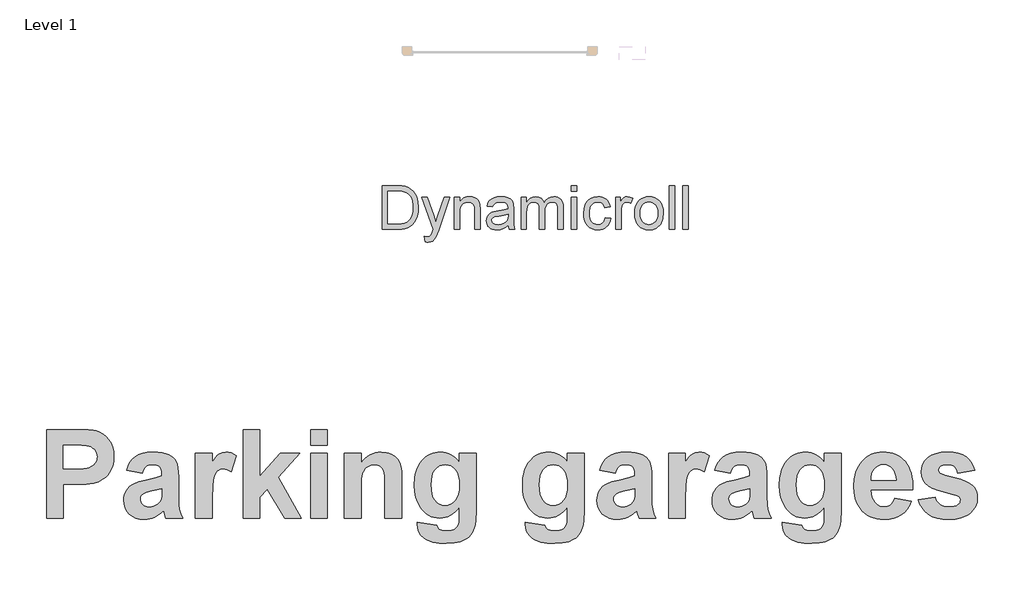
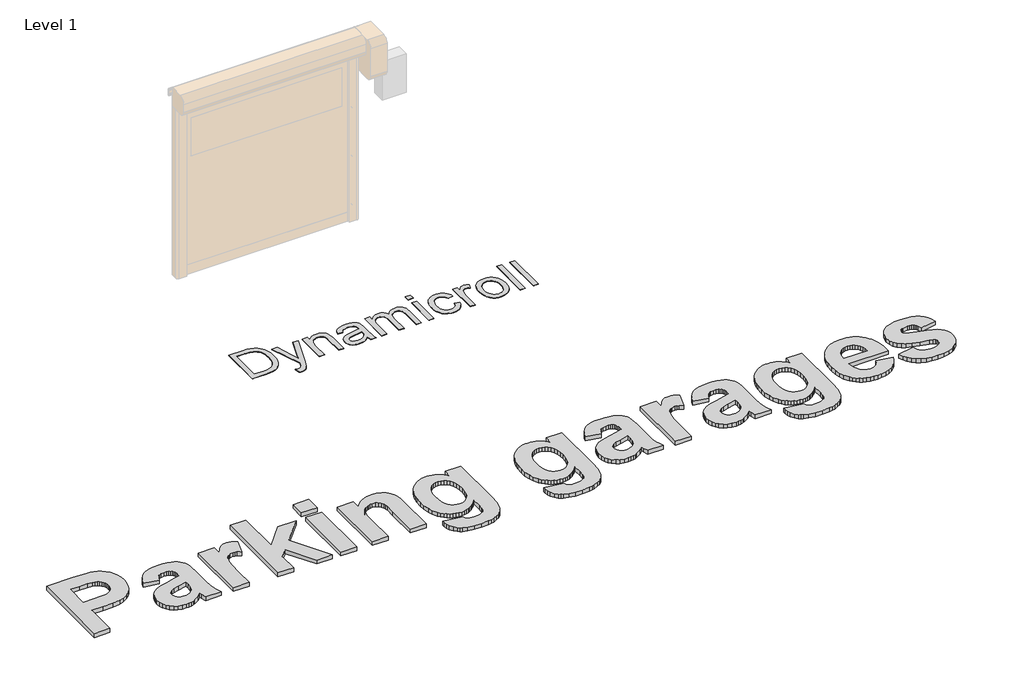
# One storey, part 17 of 17: 2 proxies.
"""IFC4 building model written with IfcOpenShell, lengths in millimetres."""

import ifcopenshell
import ifcopenshell.guid

model = None  # the IFC model being written
_history = None  # IfcOwnerHistory: only IFC2X3 demands one
_inside = {}  # id of a spatial element -> (the spatial element, [elements in it])
_under = {}  # id of a project, library or spatial element -> (it, [spatial elements below it])
_declared = {}  # id of a project -> (the project, [libraries it declares])
_typed = {}  # id of a type object -> (the type object, [elements of that type])
_made_of = {}  # id of a material, layer set ... -> (it, [elements and type objects made of it])


def new_model(schema):
    """Start an empty IFC model of exactly this schema.

    Asked for "IFC4X3", IfcOpenShell would pick the latest addendum, in which some entities
    have other attributes; the version numbers below select the first issue.
    IFC2X3 requires an IfcOwnerHistory on every rooted entity: one is made here for all.
    """
    global model, _history
    if schema == "IFC4X3":
        model = ifcopenshell.file(schema_version=(4, 3, 0, 0))
    else:
        model = ifcopenshell.file(schema=schema)
    _inside.clear()
    _under.clear()
    _declared.clear()
    _typed.clear()
    _made_of.clear()
    _history = None
    if model.schema == "IFC2X3":
        org = make("IfcOrganization", Name="unknown")
        user = make(
            "IfcPersonAndOrganization",
            ThePerson=make("IfcPerson", FamilyName="unknown"),
            TheOrganization=org,
        )
        app = make(
            "IfcApplication",
            ApplicationDeveloper=org,
            Version="unknown",
            ApplicationFullName="unknown",
            ApplicationIdentifier="unknown",
        )
        _history = make(
            "IfcOwnerHistory",
            OwningUser=user,
            OwningApplication=app,
            ChangeAction="ADDED",
            CreationDate=0,
        )
    return model


def make(cls, **values):
    """One entity of the class cls with the attributes given. An attribute that is None is left unset."""
    return model.create_entity(
        cls, **{name: value for name, value in values.items() if value is not None}
    )


def rooted(cls, **values):
    """An entity with a GlobalId (a new one), such as an element, a storey or a relation."""
    return make(cls, GlobalId=ifcopenshell.guid.new(), OwnerHistory=_history, **values)


def si_unit(unit_type, name, prefix=None):
    """IfcSIUnit, for example si_unit("LENGTHUNIT", "METRE", prefix="MILLI")."""
    return make("IfcSIUnit", UnitType=unit_type, Prefix=prefix, Name=name)


def assignment(units):
    """IfcUnitAssignment: the units of a project."""
    return None if units is None else make("IfcUnitAssignment", Units=units)


def point(xyz):
    """IfcCartesianPoint."""
    return None if xyz is None else make("IfcCartesianPoint", Coordinates=xyz)


def direction(xyz):
    """IfcDirection."""
    return None if xyz is None else make("IfcDirection", DirectionRatios=xyz)


def frame(location, z_axis=None, x_axis=None):
    """IfcAxis2Placement3D, a coordinate frame: its origin and axes. An axis left out is left unset."""
    return make(
        "IfcAxis2Placement3D",
        Location=point(location),
        Axis=direction(z_axis),
        RefDirection=direction(x_axis),
    )


def origin():
    """The frame at (0, 0, 0) with its axes left unset."""
    return frame((0.0, 0.0, 0.0))


def origin_with_axes():
    """The frame at (0, 0, 0) with the z axis (0, 0, 1) and the x axis (1, 0, 0) written out."""
    return frame((0.0, 0.0, 0.0), z_axis=(0.0, 0.0, 1.0), x_axis=(1.0, 0.0, 0.0))


def place(relative_to, where):
    """IfcLocalPlacement: puts the frame where relative to a parent placement (None: the world)."""
    return make(
        "IfcLocalPlacement", PlacementRelTo=relative_to, RelativePlacement=where
    )


def context(
    kind, dimensions, precision=None, world=None, true_north=None, identifier=None
):
    """IfcGeometricRepresentationContext, for example the 3D "Model" context."""
    return make(
        "IfcGeometricRepresentationContext",
        ContextIdentifier=identifier,
        ContextType=kind,
        CoordinateSpaceDimension=dimensions,
        Precision=precision,
        WorldCoordinateSystem=world,
        TrueNorth=true_north,
    )


def project(units=None, contexts=None):
    """IfcProject with its units and contexts."""
    return rooted(
        "IfcProject",
        Name="project",
        RepresentationContexts=contexts,
        UnitsInContext=assignment(units),
    )


def spatial(cls, under=None, at=None, **own):
    """A site, building, storey or space (cls), placed at a placement, below another one or the project."""
    s = rooted(cls, ObjectPlacement=at, **own)
    if under is not None:
        _under.setdefault(under.id(), (under, []))[1].append(s)
    return s


def polyline(points):
    """IfcPolyline through the points."""
    return make("IfcPolyline", Points=[point(p) for p in points])


def outline(outer, holes=None, kind="AREA"):
    """IfcArbitraryClosedProfileDef: a profile drawn as a closed curve; with holes, ...WithVoids."""
    if holes is None:
        return make("IfcArbitraryClosedProfileDef", ProfileType=kind, OuterCurve=outer)
    return make(
        "IfcArbitraryProfileDefWithVoids",
        ProfileType=kind,
        OuterCurve=outer,
        InnerCurves=holes,
    )


def extrude(swept, where, along, depth):
    """IfcExtrudedAreaSolid: the profile swept, set in the frame where, extruded along a direction by depth."""
    return make(
        "IfcExtrudedAreaSolid",
        SweptArea=swept,
        Position=where,
        ExtrudedDirection=direction(along),
        Depth=depth,
    )


def shape(context_of_items, identifier, shape_type, items):
    """IfcShapeRepresentation: the items that make up one representation, for example the "Body"."""
    return make(
        "IfcShapeRepresentation",
        ContextOfItems=context_of_items,
        RepresentationIdentifier=identifier,
        RepresentationType=shape_type,
        Items=items,
    )


def made_of(thing, what):
    """Note that an element or type object is made of a material, layer set ...; save() writes the relation."""
    if what is not None:
        _made_of.setdefault(what.id(), (what, []))[1].append(thing)
    return thing


def element(
    cls,
    number,
    at=None,
    inside=None,
    cuts=None,
    type_object=None,
    material=None,
    context=None,
    identifier="Body",
    shape_type=None,
    held_by="IfcProductDefinitionShape",
    body=None,
    shapes=None,
    **own,
):
    """One element of the class cls, such as IfcWall. Its Tag is "e" and its number.

    at: its placement. inside: the storey or other place that contains it. cuts: it is an
    opening in that element (IfcRelVoidsElement). A single representation is given by context,
    identifier, shape_type and body (its items); several are given by shapes. held_by: the class
    of the entity that holds the representations. save() writes the other relations.
    """
    e = rooted(cls, Tag="e%d" % number, ObjectPlacement=at, **own)
    if body is not None:
        shapes = [shape(context, identifier, shape_type, body)]
    if shapes is not None:
        e.Representation = make(held_by, Representations=shapes)
    if inside is not None:
        _inside.setdefault(inside.id(), (inside, []))[1].append(e)
    if cuts is not None:
        rooted(
            "IfcRelVoidsElement", RelatingBuildingElement=cuts, RelatedOpeningElement=e
        )
    if type_object is not None:
        _typed.setdefault(type_object.id(), (type_object, []))[1].append(e)
    return made_of(e, material)


def aggregate(whole, parts):
    """IfcRelAggregates: a whole, such as a stair, and the parts it consists of."""
    return rooted("IfcRelAggregates", RelatingObject=whole, RelatedObjects=parts)


def save(model, path):
    """Write the relations noted so far, then the file.

    IfcRelAggregates (storeys below a building ...), IfcRelContainedInSpatialStructure (elements
    in a storey), IfcRelDefinesByType, IfcRelAssociatesMaterial and IfcRelDeclares: one each for
    every whole, place, type object, material and project.
    """
    for whole, parts in _under.values():
        aggregate(whole, parts)
    for where, things in _inside.values():
        rooted(
            "IfcRelContainedInSpatialStructure",
            RelatedElements=things,
            RelatingStructure=where,
        )
    for kind, things in _typed.values():
        rooted("IfcRelDefinesByType", RelatedObjects=things, RelatingType=kind)
    for what, things in _made_of.values():
        rooted("IfcRelAssociatesMaterial", RelatedObjects=things, RelatingMaterial=what)
    for by, libraries in _declared.values():
        rooted("IfcRelDeclares", RelatingContext=by, RelatedDefinitions=libraries)
    model.write(path)


model = new_model("IFC4")

# Units and contexts
model_context = context("Model", 3, world=origin())
ifc_project = project(units=[si_unit("LENGTHUNIT", "METRE", prefix="MILLI")], contexts=[model_context])

# Site, building, storey
site = spatial("IfcSite", under=ifc_project)
building = spatial("IfcBuilding", under=site)
storey = spatial("IfcBuildingStorey", under=building, Name="Level 1", Elevation=0.0)

# Proxies
placement = place(None, origin())
element("IfcBuildingElementProxy", 1, Name="1000", ObjectType="1000", at=placement, inside=storey, context=model_context, shape_type="SweptSolid", body=[
    extrude(outline(polyline([(-782.7548717, 74991.5736553), (-782.7548717, 76011.8330553), (-454.0552287, 76011.8330553), (-299.6372478, 76008.0374474), (-246.8624832, 76003.2929375), (-210.3772023, 75996.6506237), (-168.5069028, 75981.9031056), (-130.1949857, 75960.4341985), (-95.441451, 75932.2439024), (-64.2462987, 75897.3322174), (-38.5073327, 75856.2842996), (-20.122357, 75809.6853052), (-9.0913716, 75757.5352344), (-5.4143765, 75699.834087), (-7.5731284, 75655.0063763), (-14.0493844, 75613.8951984), (-24.8431443, 75576.5005532), (-39.9544082, 75542.8224407), (-58.3947365, 75512.7106182), (-79.1756897, 75486.0148427), (-102.2972678, 75462.7351143), (-127.7594707, 75442.871433), (-181.4356922, 75412.6647203), (-235.9342954, 75394.6672129), (-327.3451854, 75383.8497304), (-452.283945, 75380.2439029), (-588.4197479, 75380.2439029), (-588.4197479, 74991.5736553), (-782.7548717, 74991.5736553)]), holes=[polyline([(-588.4197479, 75833.6925251), (-588.4197479, 75558.3844331), (-467.7194171, 75558.3844331), (-359.0068812, 75562.180041), (-320.8531144, 75566.9245508), (-293.5010151, 75573.5668646), (-254.3429937, 75593.0826152), (-238.3223654, 75606.0904797), (-224.673992, 75621.2650037), (-213.7695269, 75638.1791814), (-205.9806232, 75656.4060067), (-201.307281, 75675.9454798), (-199.7495003, 75696.7976007), (-201.9398823, 75722.0858382), (-208.5110285, 75745.065081), (-219.4629387, 75765.7353289), (-234.7956131, 75784.0965821), (-253.4652594, 75799.6902045), (-274.4280854, 75812.0575602), (-297.6840913, 75821.1986492), (-323.2332768, 75827.1134714), (-382.6345403, 75832.0477617), (-481.8896865, 75833.6925251), (-588.4197479, 75833.6925251)])]), origin_with_axes(), (0.0, 0.0, 1.0), 50.0),
    extrude(outline(polyline([(318.4774965, 75509.8006521), (140.3369664, 75542.1898394), (157.0771787, 75592.3551237), (178.9572766, 75635.5617934), (205.9772603, 75671.8098487), (238.1371296, 75701.0992896), (277.065833, 75723.6831565), (324.3923188, 75739.8144901), (380.1165871, 75749.4932902), (444.2386379, 75752.7195569), (502.3905137, 75750.7664003), (552.603243, 75744.9069306), (594.8768259, 75735.1411478), (629.2112622, 75721.4690519), (657.3303906, 75704.8000073), (680.9580497, 75686.0433783), (700.0942395, 75665.199165), (714.7389599, 75642.2673674), (725.5880725, 75613.2705046), (733.3374386, 75574.231096), (737.9870582, 75525.1491415), (739.5369315, 75466.0246412), (739.5369315, 75236.2638437), (742.0989668, 75150.9891866), (749.7850727, 75091.524663), (764.4930533, 75043.2571827), (788.1207124, 74991.5736553), (593.7855886, 74991.5736553), (575.5666707, 75053.3155436), (568.7345765, 75077.8604746), (518.442772, 75033.1039316), (464.7349205, 75001.062675), (436.5683469, 74989.8260942), (407.4845015, 74981.799965), (377.4833842, 74976.9842875), (346.5649949, 74975.3790617), (294.0828084, 74979.2774673), (247.467999, 74990.9726841), (206.7205668, 75010.4647121), (171.8405119, 75037.7535513), (143.8874413, 75070.9888428), (123.9209623, 75108.3202279), (111.9410749, 75149.7477065), (107.9477791, 75195.2712786), (109.7269703, 75225.9208123), (115.0645439, 75254.8623224), (123.9604999, 75282.095809), (136.4148382, 75307.621272), (152.0796283, 75330.8535553), (170.6069393, 75351.2075026), (191.9967712, 75368.6831139), (216.2491241, 75383.2803892), (278.9399144, 75407.8885804), (364.2778317, 75429.0807244), (474.7932814, 75454.0684763), (545.2018076, 75477.4114648), (545.2018076, 75497.9077474), (543.691472, 75525.2677543), (539.1604651, 75548.3893323), (531.6087869, 75567.2724815), (521.0364374, 75581.917202), (506.2889193, 75592.8770197), (486.2117351, 75600.705461), (460.8048848, 75605.4025258), (430.0683684, 75606.968214), (389.7716647, 75601.5911028), (373.3714756, 75594.8697139), (359.4700617, 75585.4597693), (347.4190067, 75572.6654077), (336.5698941, 75555.7907677), (318.4774965, 75509.8006521)]), holes=[polyline([(545.2018076, 75331.660122), (435.63526, 75304.711306), (373.6403312, 75289.2442038), (337.455536, 75273.9668821), (322.067509, 75260.9827401), (311.0760612, 75246.3222046), (304.4811925, 75229.9852757), (302.2829029, 75211.9719533), (304.0462791, 75194.1246887), (309.3364076, 75177.5268117), (318.1532884, 75162.1783223), (330.4969215, 75148.0792205), (345.5607403, 75136.2891135), (362.5381781, 75127.8676085), (381.4292349, 75122.8147055), (402.2339106, 75121.1304045), (426.3518357, 75123.0914686), (449.8687896, 75128.9746608), (472.7847722, 75138.7799812), (495.0997835, 75152.5074297), (522.3016401, 75178.9501647), (538.1166729, 75210.7067506), (543.430524, 75243.4122386), (545.2018076, 75296.4874889), (545.2018076, 75331.660122)])]), origin_with_axes(), (0.0, 0.0, 1.0), 50.0),
    extrude(outline(polyline([(1128.2071791, 74991.5736553), (933.8720553, 74991.5736553), (933.8720553, 75736.5249632), (1128.2071791, 75736.5249632), (1128.2071791, 75632.7783476), (1169.2630044, 75693.7927444), (1188.1303386, 75714.8346456), (1205.8906205, 75729.5663488), (1242.708017, 75746.9312548), (1284.3331835, 75752.7195569), (1314.935272, 75750.1575215), (1344.9996495, 75742.4714156), (1374.5263159, 75729.661239), (1403.5152711, 75711.7269917), (1346.8341933, 75526.7543673), (1300.0216961, 75550.4769166), (1277.9439102, 75556.407554), (1256.7517662, 75558.3844331), (1219.3966585, 75552.8491716), (1203.0676371, 75545.9300947), (1188.3043039, 75536.2433871), (1175.0671214, 75522.9508519), (1163.316552, 75505.2142926), (1144.2752524, 75456.4091012), (1137.2454703, 75419.6549648), (1132.2241974, 75367.0857956), (1128.2071791, 75214.5023585), (1128.2071791, 74991.5736553)])), origin_with_axes(), (0.0, 0.0, 1.0), 50.0),
    extrude(outline(polyline([(1484.4882394, 74991.5736553), (1484.4882394, 76011.8330553), (1678.8233632, 76011.8330553), (1678.8233632, 75474.121938), (1913.6449711, 75736.5249632), (2140.3692822, 75736.5249632), (1890.6182832, 75462.7351143), (2156.5638758, 74991.5736553), (1962.228752, 74991.5736553), (1765.6162635, 75325.3341088), (1678.8233632, 75230.1908711), (1678.8233632, 74991.5736553), (1484.4882394, 74991.5736553)])), origin_with_axes(), (0.0, 0.0, 1.0), 50.0),
    extrude(outline(polyline([(2261.8287346, 75833.6925251), (2261.8287346, 76011.8330553), (2456.1638584, 76011.8330553), (2456.1638584, 75833.6925251), (2261.8287346, 75833.6925251)])), origin_with_axes(), (0.0, 0.0, 1.0), 50.0),
    extrude(outline(polyline([(2261.8287346, 74991.5736553), (2261.8287346, 75736.5249632), (2456.1638584, 75736.5249632), (2456.1638584, 74991.5736553), (2261.8287346, 74991.5736553)])), origin_with_axes(), (0.0, 0.0, 1.0), 50.0),
    extrude(outline(polyline([(3314.4773218, 74991.5736553), (3120.142198, 74991.5736553), (3120.142198, 75374.4239708), (3117.1057117, 75474.628019), (3113.3101038, 75508.5987096), (3107.9962528, 75531.8151779), (3091.9914395, 75563.5085037), (3068.2688902, 75587.231053), (3037.9672873, 75602.0339238), (3002.225313, 75606.968214), (2978.0678503, 75605.2048379), (2955.1914053, 75599.9147094), (2933.5959779, 75591.0978285), (2913.2815682, 75578.7541954), (2895.1575405, 75563.4926887), (2880.1332593, 75545.9221872), (2868.2087245, 75526.0426909), (2859.3839362, 75503.8541998), (2853.0183855, 75475.5690135), (2848.4715635, 75437.3994317), (2844.834106, 75331.4070814), (2844.834106, 74991.5736553), (2650.4989822, 74991.5736553), (2650.4989822, 75736.5249632), (2844.834106, 75736.5249632), (2844.834106, 75629.2357803), (2868.6713142, 75658.1772904), (2894.0030431, 75683.2599325), (2920.8292926, 75704.4837066), (2949.1500627, 75721.8486127), (2978.9653534, 75735.3546508), (3010.2751647, 75745.0018208), (3043.0794966, 75750.7901229), (3077.3783492, 75752.7195569), (3136.4633119, 75746.8363646), (3164.0130992, 75739.4823744), (3190.2344237, 75729.186788), (3235.149117, 75702.4277524), (3252.956844, 75686.6285345), (3267.6648245, 75669.2161834), (3289.9640209, 75630.3428326), (3304.2291805, 75586.5984517), (3311.9152865, 75530.3918249), (3314.4773218, 75454.1317364), (3314.4773218, 74991.5736553)])), origin_with_axes(), (0.0, 0.0, 1.0), 50.0),
    extrude(outline(polyline([(3492.617852, 74942.9898744), (3719.3421631, 74910.6006871), (3728.0088011, 74882.0071076), (3743.381013, 74864.0412303), (3758.3894792, 74856.0704538), (3777.0986631, 74850.3770419), (3825.6191839, 74845.8223125), (3859.3052039, 74847.2614804), (3888.4997546, 74851.5789844), (3913.2028359, 74858.7748244), (3933.4144479, 74868.8490003), (3954.5433318, 74889.0289822), (3969.8522836, 74918.6979839), (3976.304817, 74953.6175764), (3978.4556615, 75009.2864921), (3978.4556615, 75117.8408777), (3953.9067767, 75088.2469974), (3928.3378223, 75062.5989679), (3901.7487983, 75040.896789), (3874.1397047, 75023.1404609), (3845.5105415, 75009.3299835), (3815.8613086, 74999.4653567), (3785.1920061, 74993.5465807), (3753.5026341, 74991.5736553), (3718.5079201, 74993.5544882), (3685.3872875, 74999.4969868), (3654.1407363, 75009.4011511), (3624.7682666, 75023.2669812), (3597.2698782, 75041.094477), (3571.6455712, 75062.8836385), (3547.8953456, 75088.6344657), (3526.0192014, 75118.3469587), (3497.2358416, 75171.5170992), (3476.6762988, 75230.8234724), (3464.3405732, 75296.2660784), (3460.2286647, 75367.8449171), (3465.6136834, 75455.9425577), (3472.3449567, 75495.8458625), (3481.7687394, 75532.9854903), (3493.8850315, 75567.3614411), (3508.6938329, 75598.9737149), (3526.1951436, 75627.8223117), (3546.3889637, 75653.9072315), (3592.1023162, 75697.1376239), (3616.9338947, 75714.1209923), (3643.0820746, 75728.0164755), (3670.5468561, 75738.8240736), (3699.328239, 75746.5437865), (3729.4262234, 75751.1756143), (3760.8408093, 75752.7195569), (3793.1351064, 75750.8889668), (3823.9744205, 75745.3971967), (3853.3587515, 75736.2442464), (3881.2880996, 75723.430116), (3907.7624646, 75706.9548055), (3932.7818466, 75686.8183149), (3956.3462455, 75663.0206442), (3978.4556615, 75635.5617934), (3978.4556615, 75736.5249632), (4172.7907853, 75736.5249632), (4172.7907853, 75074.8239883), (4167.5085643, 74960.9241216), (4160.9057881, 74916.2861914), (4151.6619014, 74879.8562632), (4140.0378522, 74849.2778971), (4126.2945887, 74822.1946534), (4110.4321107, 74798.6065319), (4092.4504183, 74778.5135326), (4071.8118005, 74761.156534), (4047.9785459, 74745.7764146), (3990.728127, 74720.946813), (3956.796974, 74711.8136315), (3918.6432072, 74705.2899305), (3829.6678323, 74700.0709696), (3744.3773601, 74703.9614677), (3672.4664057, 74715.6329619), (3613.934969, 74735.0854524), (3589.6865699, 74747.7295711), (3568.7830502, 74762.318939), (3535.1286603, 74795.530508), (3511.0898104, 74832.9172456), (3496.6665004, 74874.479152), (3491.8587304, 74920.216227), (3492.617852, 74942.9898744)]), holes=[polyline([(3654.5637885, 75375.1830924), (3657.3709568, 75317.5847427), (3665.7924618, 75268.2734703), (3679.8283035, 75227.249275), (3699.4784818, 75194.512157), (3723.2563837, 75169.492775), (3749.6753961, 75151.6217879), (3778.735519, 75140.8991956), (3810.4367524, 75137.3249982), (3844.3679054, 75140.9940858), (3875.5630577, 75152.0013487), (3904.0222093, 75170.3467868), (3929.7453603, 75196.0304001), (3951.056117, 75228.9098535), (3966.2780862, 75268.8428114), (3975.4112676, 75315.8292741), (3978.4556615, 75369.8692414), (3975.5377879, 75426.2102959), (3966.7841672, 75474.7861694), (3952.1947994, 75515.5968617), (3931.7696845, 75548.6423728), (3906.8847303, 75574.1599283), (3878.9158446, 75592.3867537), (3847.8630276, 75603.3228489), (3813.7262792, 75606.968214), (3780.5858778, 75603.3940166), (3750.4977778, 75592.6714243), (3723.4619791, 75574.8004372), (3699.4784818, 75549.7810552), (3679.8283035, 75517.423498), (3665.7924618, 75477.5379851), (3657.3709568, 75430.1245166), (3654.5637885, 75375.1830924)])]), origin_with_axes(), (0.0, 0.0, 1.0), 50.0),
    extrude(outline(polyline([(4739.601563, 74942.9898744), (4966.3258741, 74910.6006871), (4974.9925121, 74882.0071076), (4990.3647241, 74864.0412303), (5005.3731903, 74856.0704538), (5024.0823741, 74850.3770419), (5072.602895, 74845.8223125), (5106.288915, 74847.2614804), (5135.4834656, 74851.5789844), (5160.1865469, 74858.7748244), (5180.3981589, 74868.8490003), (5201.5270428, 74889.0289822), (5216.8359947, 74918.6979839), (5223.2885281, 74953.6175764), (5225.4393725, 75009.2864921), (5225.4393725, 75117.8408777), (5200.8904878, 75088.2469974), (5175.3215334, 75062.5989679), (5148.7325094, 75040.896789), (5121.1234158, 75023.1404609), (5092.4942525, 75009.3299835), (5062.8450197, 74999.4653567), (5032.1757172, 74993.5465807), (5000.4863451, 74991.5736553), (4965.4916311, 74993.5544882), (4932.3709986, 74999.4969868), (4901.1244474, 75009.4011511), (4871.7519776, 75023.2669812), (4844.2535892, 75041.094477), (4818.6292822, 75062.8836385), (4794.8790566, 75088.6344657), (4773.0029124, 75118.3469587), (4744.2195526, 75171.5170992), (4723.6600099, 75230.8234724), (4711.3242843, 75296.2660784), (4707.2123757, 75367.8449171), (4712.5973944, 75455.9425577), (4719.3286678, 75495.8458625), (4728.7524505, 75532.9854903), (4740.8687425, 75567.3614411), (4755.6775439, 75598.9737149), (4773.1788547, 75627.8223117), (4793.3726748, 75653.9072315), (4839.0860272, 75697.1376239), (4863.9176057, 75714.1209923), (4890.0657857, 75728.0164755), (4917.5305671, 75738.8240736), (4946.31195, 75746.5437865), (4976.4099345, 75751.1756143), (5007.8245204, 75752.7195569), (5040.1188175, 75750.8889668), (5070.9581315, 75745.3971967), (5100.3424626, 75736.2442464), (5128.2718106, 75723.430116), (5154.7461756, 75706.9548055), (5179.7655576, 75686.8183149), (5203.3299566, 75663.0206442), (5225.4393725, 75635.5617934), (5225.4393725, 75736.5249632), (5419.7744963, 75736.5249632), (5419.7744963, 75074.8239883), (5414.4922754, 74960.9241216), (5407.8894991, 74916.2861914), (5398.6456124, 74879.8562632), (5387.0215633, 74849.2778971), (5373.2782997, 74822.1946534), (5357.4158218, 74798.6065319), (5339.4341294, 74778.5135326), (5318.7955115, 74761.156534), (5294.962257, 74745.7764146), (5237.711838, 74720.946813), (5203.780685, 74711.8136315), (5165.6269182, 74705.2899305), (5076.6515434, 74700.0709696), (4991.3610711, 74703.9614677), (4919.4501167, 74715.6329619), (4860.9186801, 74735.0854524), (4836.670281, 74747.7295711), (4815.7667613, 74762.318939), (4782.1123714, 74795.530508), (4758.0735214, 74832.9172456), (4743.6502114, 74874.479152), (4738.8424415, 74920.216227), (4739.601563, 74942.9898744)]), holes=[polyline([(4901.5474995, 75375.1830924), (4904.3546679, 75317.5847427), (4912.7761729, 75268.2734703), (4926.8120145, 75227.249275), (4946.4621929, 75194.512157), (4970.2400948, 75169.492775), (4996.6591072, 75151.6217879), (5025.71923, 75140.8991956), (5057.4204634, 75137.3249982), (5091.3516164, 75140.9940858), (5122.5467687, 75152.0013487), (5151.0059204, 75170.3467868), (5176.7290713, 75196.0304001), (5198.0398281, 75228.9098535), (5213.2617972, 75268.8428114), (5222.3949787, 75315.8292741), (5225.4393725, 75369.8692414), (5222.521499, 75426.2102959), (5213.7678783, 75474.7861694), (5199.1785105, 75515.5968617), (5178.7533955, 75548.6423728), (5153.8684413, 75574.1599283), (5125.8995557, 75592.3867537), (5094.8467387, 75603.3228489), (5060.7099902, 75606.968214), (5027.5695889, 75603.3940166), (4997.4814889, 75592.6714243), (4970.4456902, 75574.8004372), (4946.4621929, 75549.7810552), (4926.8120145, 75517.423498), (4912.7761729, 75477.5379851), (4904.3546679, 75430.1245166), (4901.5474995, 75375.1830924)])]), origin_with_axes(), (0.0, 0.0, 1.0), 50.0),
    extrude(outline(polyline([(5776.0555566, 75509.8006521), (5597.9150265, 75542.1898394), (5614.6552388, 75592.3551237), (5636.5353367, 75635.5617934), (5663.5553204, 75671.8098487), (5695.7151897, 75701.0992896), (5734.6438931, 75723.6831565), (5781.9703789, 75739.8144901), (5837.6946472, 75749.4932902), (5901.8166979, 75752.7195569), (5959.9685738, 75750.7664003), (6010.1813031, 75744.9069306), (6052.454886, 75735.1411478), (6086.7893223, 75721.4690519), (6114.9084507, 75704.8000073), (6138.5361098, 75686.0433783), (6157.6722996, 75665.199165), (6172.31702, 75642.2673674), (6183.1661326, 75613.2705046), (6190.9154987, 75574.231096), (6195.5651183, 75525.1491415), (6197.1149915, 75466.0246412), (6197.1149915, 75236.2638437), (6199.6770269, 75150.9891866), (6207.3631328, 75091.524663), (6222.0711134, 75043.2571827), (6245.6987725, 74991.5736553), (6051.3636487, 74991.5736553), (6033.1447308, 75053.3155436), (6026.3126366, 75077.8604746), (5976.0208321, 75033.1039316), (5922.3129805, 75001.062675), (5894.146407, 74989.8260942), (5865.0625616, 74981.799965), (5835.0614442, 74976.9842875), (5804.143055, 74975.3790617), (5751.6608684, 74979.2774673), (5705.0460591, 74990.9726841), (5664.2986269, 75010.4647121), (5629.4185719, 75037.7535513), (5601.4655014, 75070.9888428), (5581.4990224, 75108.3202279), (5569.519135, 75149.7477065), (5565.5258392, 75195.2712786), (5567.3050304, 75225.9208123), (5572.642604, 75254.8623224), (5581.53856, 75282.095809), (5593.9928983, 75307.621272), (5609.6576884, 75330.8535553), (5628.1849994, 75351.2075026), (5649.5748313, 75368.6831139), (5673.8271842, 75383.2803892), (5736.5179745, 75407.8885804), (5821.8558918, 75429.0807244), (5932.3713414, 75454.0684763), (6002.7798677, 75477.4114648), (6002.7798677, 75497.9077474), (6001.2695321, 75525.2677543), (5996.7385252, 75548.3893323), (5989.186847, 75567.2724815), (5978.6144975, 75581.917202), (5963.8669794, 75592.8770197), (5943.7897952, 75600.705461), (5918.3829449, 75605.4025258), (5887.6464285, 75606.968214), (5847.3497248, 75601.5911028), (5830.9495357, 75594.8697139), (5817.0481218, 75585.4597693), (5804.9970668, 75572.6654077), (5794.1479542, 75555.7907677), (5776.0555566, 75509.8006521)]), holes=[polyline([(6002.7798677, 75331.660122), (5893.2133201, 75304.711306), (5831.2183913, 75289.2442038), (5795.0335961, 75273.9668821), (5779.6455691, 75260.9827401), (5768.6541213, 75246.3222046), (5762.0592526, 75229.9852757), (5759.860963, 75211.9719533), (5761.6243391, 75194.1246887), (5766.9144676, 75177.5268117), (5775.7313485, 75162.1783223), (5788.0749816, 75148.0792205), (5803.1388004, 75136.2891135), (5820.1162382, 75127.8676085), (5839.0072949, 75122.8147055), (5859.8119707, 75121.1304045), (5883.9298958, 75123.0914686), (5907.4468496, 75128.9746608), (5930.3628323, 75138.7799812), (5952.6778436, 75152.5074297), (5979.8797002, 75178.9501647), (5995.694733, 75210.7067506), (6001.0085841, 75243.4122386), (6002.7798677, 75296.4874889), (6002.7798677, 75331.660122)])]), origin_with_axes(), (0.0, 0.0, 1.0), 50.0),
    extrude(outline(polyline([(6585.7852391, 74991.5736553), (6391.4501153, 74991.5736553), (6391.4501153, 75736.5249632), (6585.7852391, 75736.5249632), (6585.7852391, 75632.7783476), (6626.8410644, 75693.7927444), (6645.7083987, 75714.8346456), (6663.4686806, 75729.5663488), (6700.2860771, 75746.9312548), (6741.9112435, 75752.7195569), (6772.5133321, 75750.1575215), (6802.5777096, 75742.4714156), (6832.104376, 75729.661239), (6861.0933312, 75711.7269917), (6804.4122534, 75526.7543673), (6757.5997561, 75550.4769166), (6735.5219703, 75556.407554), (6714.3298262, 75558.3844331), (6676.9747186, 75552.8491716), (6660.6456972, 75545.9300947), (6645.882364, 75536.2433871), (6632.6451815, 75522.9508519), (6620.8946121, 75505.2142926), (6601.8533125, 75456.4091012), (6594.8235304, 75419.6549648), (6589.8022575, 75367.0857956), (6585.7852391, 75214.5023585), (6585.7852391, 74991.5736553)])), origin_with_axes(), (0.0, 0.0, 1.0), 50.0),
    extrude(outline(polyline([(7104.0122359, 75509.8006521), (6925.8717058, 75542.1898394), (6942.6119181, 75592.3551237), (6964.492016, 75635.5617934), (6991.5119997, 75671.8098487), (7023.671869, 75701.0992896), (7062.6005724, 75723.6831565), (7109.9270582, 75739.8144901), (7165.6513265, 75749.4932902), (7229.7733773, 75752.7195569), (7287.9252531, 75750.7664003), (7338.1379824, 75744.9069306), (7380.4115653, 75735.1411478), (7414.7460016, 75721.4690519), (7442.86513, 75704.8000073), (7466.4927891, 75686.0433783), (7485.6289789, 75665.199165), (7500.2736993, 75642.2673674), (7511.1228119, 75613.2705046), (7518.872178, 75574.231096), (7523.5217976, 75525.1491415), (7525.0716708, 75466.0246412), (7525.0716708, 75236.2638437), (7527.6337062, 75150.9891866), (7535.3198121, 75091.524663), (7550.0277927, 75043.2571827), (7573.6554518, 74991.5736553), (7379.320328, 74991.5736553), (7361.1014101, 75053.3155436), (7354.2693159, 75077.8604746), (7303.9775114, 75033.1039316), (7250.2696598, 75001.062675), (7222.1030863, 74989.8260942), (7193.0192409, 74981.799965), (7163.0181236, 74976.9842875), (7132.0997343, 74975.3790617), (7079.6175478, 74979.2774673), (7033.0027384, 74990.9726841), (6992.2553062, 75010.4647121), (6957.3752513, 75037.7535513), (6929.4221807, 75070.9888428), (6909.4557017, 75108.3202279), (6897.4758143, 75149.7477065), (6893.4825185, 75195.2712786), (6895.2617097, 75225.9208123), (6900.5992833, 75254.8623224), (6909.4952393, 75282.095809), (6921.9495776, 75307.621272), (6937.6143677, 75330.8535553), (6956.1416787, 75351.2075026), (6977.5315106, 75368.6831139), (7001.7838635, 75383.2803892), (7064.4746538, 75407.8885804), (7149.8125711, 75429.0807244), (7260.3280207, 75454.0684763), (7330.736547, 75477.4114648), (7330.736547, 75497.9077474), (7329.2262114, 75525.2677543), (7324.6952045, 75548.3893323), (7317.1435263, 75567.2724815), (7306.5711768, 75581.917202), (7291.8236587, 75592.8770197), (7271.7464745, 75600.705461), (7246.3396242, 75605.4025258), (7215.6031078, 75606.968214), (7175.3064041, 75601.5911028), (7158.906215, 75594.8697139), (7145.0048011, 75585.4597693), (7132.9537461, 75572.6654077), (7122.1046335, 75555.7907677), (7104.0122359, 75509.8006521)]), holes=[polyline([(7330.736547, 75331.660122), (7221.1699994, 75304.711306), (7159.1750706, 75289.2442038), (7122.9902754, 75273.9668821), (7107.6022484, 75260.9827401), (7096.6108006, 75246.3222046), (7090.0159319, 75229.9852757), (7087.8176423, 75211.9719533), (7089.5810185, 75194.1246887), (7094.871147, 75177.5268117), (7103.6880278, 75162.1783223), (7116.0316609, 75148.0792205), (7131.0954797, 75136.2891135), (7148.0729175, 75127.8676085), (7166.9639742, 75122.8147055), (7187.76865, 75121.1304045), (7211.8865751, 75123.0914686), (7235.403529, 75128.9746608), (7258.3195116, 75138.7799812), (7280.6345229, 75152.5074297), (7307.8363795, 75178.9501647), (7323.6514123, 75210.7067506), (7328.9652634, 75243.4122386), (7330.736547, 75296.4874889), (7330.736547, 75331.660122)])]), origin_with_axes(), (0.0, 0.0, 1.0), 50.0),
    extrude(outline(polyline([(7703.212201, 74942.9898744), (7929.9365121, 74910.6006871), (7938.6031501, 74882.0071076), (7953.975362, 74864.0412303), (7968.9838282, 74856.0704538), (7987.6930121, 74850.3770419), (8036.2135329, 74845.8223125), (8069.8995529, 74847.2614804), (8099.0941036, 74851.5789844), (8123.7971849, 74858.7748244), (8144.0087969, 74868.8490003), (8165.1376808, 74889.0289822), (8180.4466326, 74918.6979839), (8186.899166, 74953.6175764), (8189.0500105, 75009.2864921), (8189.0500105, 75117.8408777), (8164.5011257, 75088.2469974), (8138.9321714, 75062.5989679), (8112.3431474, 75040.896789), (8084.7340537, 75023.1404609), (8056.1048905, 75009.3299835), (8026.4556577, 74999.4653567), (7995.7863552, 74993.5465807), (7964.0969831, 74991.5736553), (7929.1022691, 74993.5544882), (7895.9816365, 74999.4969868), (7864.7350854, 75009.4011511), (7835.3626156, 75023.2669812), (7807.8642272, 75041.094477), (7782.2399202, 75062.8836385), (7758.4896946, 75088.6344657), (7736.6135504, 75118.3469587), (7707.8301906, 75171.5170992), (7687.2706479, 75230.8234724), (7674.9349222, 75296.2660784), (7670.8230137, 75367.8449171), (7676.2080324, 75455.9425577), (7682.9393057, 75495.8458625), (7692.3630885, 75532.9854903), (7704.4793805, 75567.3614411), (7719.2881819, 75598.9737149), (7736.7894926, 75627.8223117), (7756.9833127, 75653.9072315), (7802.6966652, 75697.1376239), (7827.5282437, 75714.1209923), (7853.6764236, 75728.0164755), (7881.1412051, 75738.8240736), (7909.922588, 75746.5437865), (7940.0205724, 75751.1756143), (7971.4351583, 75752.7195569), (8003.7294554, 75750.8889668), (8034.5687695, 75745.3971967), (8063.9531006, 75736.2442464), (8091.8824486, 75723.430116), (8118.3568136, 75706.9548055), (8143.3761956, 75686.8183149), (8166.9405946, 75663.0206442), (8189.0500105, 75635.5617934), (8189.0500105, 75736.5249632), (8383.3851343, 75736.5249632), (8383.3851343, 75074.8239883), (8378.1029133, 74960.9241216), (8371.5001371, 74916.2861914), (8362.2562504, 74879.8562632), (8350.6322012, 74849.2778971), (8336.8889377, 74822.1946534), (8321.0264597, 74798.6065319), (8303.0447674, 74778.5135326), (8282.4061495, 74761.156534), (8258.572895, 74745.7764146), (8201.322476, 74720.946813), (8167.391323, 74711.8136315), (8129.2375562, 74705.2899305), (8040.2621813, 74700.0709696), (7954.9717091, 74703.9614677), (7883.0607547, 74715.6329619), (7824.5293181, 74735.0854524), (7800.2809189, 74747.7295711), (7779.3773993, 74762.318939), (7745.7230093, 74795.530508), (7721.6841594, 74832.9172456), (7707.2608494, 74874.479152), (7702.4530794, 74920.216227), (7703.212201, 74942.9898744)]), holes=[polyline([(7865.1581375, 75375.1830924), (7867.9653058, 75317.5847427), (7876.3868108, 75268.2734703), (7890.4226525, 75227.249275), (7910.0728308, 75194.512157), (7933.8507327, 75169.492775), (7960.2697451, 75151.6217879), (7989.329868, 75140.8991956), (8021.0311014, 75137.3249982), (8054.9622544, 75140.9940858), (8086.1574067, 75152.0013487), (8114.6165583, 75170.3467868), (8140.3397093, 75196.0304001), (8161.6504661, 75228.9098535), (8176.8724352, 75268.8428114), (8186.0056167, 75315.8292741), (8189.0500105, 75369.8692414), (8186.1321369, 75426.2102959), (8177.3785162, 75474.7861694), (8162.7891484, 75515.5968617), (8142.3640335, 75548.6423728), (8117.4790793, 75574.1599283), (8089.5101937, 75592.3867537), (8058.4573766, 75603.3228489), (8024.3206282, 75606.968214), (7991.1802269, 75603.3940166), (7961.0921268, 75592.6714243), (7934.0563282, 75574.8004372), (7910.0728308, 75549.7810552), (7890.4226525, 75517.423498), (7876.3868108, 75477.5379851), (7867.9653058, 75430.1245166), (7865.1581375, 75375.1830924)])]), origin_with_axes(), (0.0, 0.0, 1.0), 50.0),
    extrude(outline(polyline([(8998.779693, 75218.2979664), (9193.1148168, 75185.9087791), (9172.1124532, 75137.491056), (9145.7962385, 75095.2253807), (9114.1661728, 75059.1117531), (9077.222256, 75029.1501734), (9035.1384536, 75005.625312), (8988.0887308, 74988.8218396), (8936.0730877, 74978.7397561), (8879.0915243, 74975.3790617), (8833.5560909, 74977.3598945), (8791.0808664, 74983.3023931), (8751.6658508, 74993.2065575), (8715.311044, 75007.0723875), (8682.0164461, 75024.8998833), (8651.782057, 75046.6890448), (8624.6078768, 75072.4398721), (8600.4939054, 75102.1523651), (8569.2750306, 75156.2239624), (8546.9758342, 75216.9695037), (8533.5963164, 75284.3889887), (8529.1364772, 75358.4824177), (8535.0512994, 75445.8446592), (8542.4448273, 75485.7776172), (8552.7957663, 75523.2118), (8566.1041165, 75558.1472076), (8582.3698778, 75590.58384), (8601.5930502, 75620.5216972), (8623.7736338, 75647.9607792), (8648.2157671, 75672.5136177), (8674.2235886, 75693.7927444), (8701.7970984, 75711.7981593), (8730.9362965, 75726.5298624), (8761.6411828, 75737.9878538), (8793.9117573, 75746.1721333), (8827.7480201, 75751.082701), (8863.1499712, 75752.7195569), (8902.6915071, 75751.0392096), (8940.0901061, 75745.9981679), (8975.3457681, 75737.5964317), (9008.4584931, 75725.834001), (9039.4282812, 75710.7108758), (9068.2551324, 75692.2270562), (9094.9390466, 75670.382542), (9119.4800238, 75645.1773334), (9141.4194281, 75616.5007251), (9160.2986236, 75584.2420118), (9176.1176102, 75548.4011936), (9188.876388, 75508.9782704), (9198.5749569, 75465.9732423), (9205.2133169, 75419.3861092), (9208.7914681, 75369.2168712), (9209.3094105, 75315.4655283), (8723.471601, 75315.4655283), (8727.0932435, 75271.9741879), (8735.9338468, 75233.6069182), (8749.9934111, 75200.3637191), (8769.2719361, 75172.2445907), (8792.5042194, 75149.8821343), (8818.4250583, 75133.9089511), (8847.0344527, 75124.3250411), (8878.3324027, 75121.1304045), (8919.1351875, 75126.8870765), (8936.9270995, 75134.0829164), (8952.9793578, 75144.1570924), (8967.2287024, 75157.4259049), (8979.6118732, 75174.2056548), (8998.779693, 75218.2979664)]), holes=[polyline([(9014.9742867, 75428.8276839), (9011.5107945, 75469.8597866), (9003.1446421, 75505.6571135), (8989.8758295, 75536.2196645), (8971.7043567, 75561.5474396), (8949.9745016, 75581.4190284), (8926.0305418, 75595.6130204), (8899.8724775, 75604.1294156), (8871.5003085, 75606.968214), (8841.3568559, 75603.9791728), (8813.9335889, 75595.0120492), (8789.2305076, 75580.0668431), (8767.2476119, 75559.1435546), (8749.3449947, 75532.9696753), (8736.6297083, 75502.525737), (8729.1017527, 75467.8117399), (8726.7611278, 75428.8276839), (9014.9742867, 75428.8276839)])]), origin_with_axes(), (0.0, 0.0, 1.0), 50.0),
    extrude(outline(polyline([(9274.0877851, 75202.1033728), (9468.4229089, 75234.4925601), (9476.0852923, 75208.3344957), (9486.9264973, 75185.5292183), (9500.9465239, 75166.0767279), (9518.1453722, 75149.9770245), (9538.7918976, 75137.3566282), (9563.1549557, 75128.3420595), (9591.2345465, 75122.9333183), (9623.0306701, 75121.1304045), (9657.8079274, 75122.8542431), (9687.9988251, 75128.0257588), (9713.6033633, 75136.6449517), (9734.621542, 75148.7118218), (9745.692065, 75159.1497435), (9753.5995814, 75171.2324286), (9758.3440913, 75184.9598771), (9759.9255946, 75200.3320891), (9756.5728076, 75220.4488109), (9746.5144467, 75236.7699248), (9723.551019, 75250.1178125), (9683.0012747, 75262.3270179), (9578.6378729, 75287.7259607), (9495.3084647, 75312.0494812), (9433.0130503, 75335.2975795), (9391.7516295, 75357.4702556), (9354.443967, 75390.5078592), (9327.7956367, 75429.397025), (9311.8066384, 75474.137753), (9306.4769724, 75524.7300431), (9311.0475169, 75571.0206443), (9324.7591503, 75613.4840076), (9347.6118728, 75652.1201328), (9379.6056843, 75686.9290202), (9421.2150358, 75715.71238), (9472.9143782, 75736.2719227), (9534.7037116, 75748.6076483), (9606.5830359, 75752.7195569), (9675.0146831, 75749.3984), (9734.0522008, 75739.4349293), (9783.695589, 75722.8291448), (9823.9448476, 75699.5810465), (9856.7294107, 75669.8171546), (9883.9787123, 75633.6639895), (9905.6927524, 75591.1215511), (9921.8715311, 75542.1898394), (9727.5364073, 75509.8006521), (9713.2396176, 75551.3625585), (9702.7700658, 75568.0157881), (9690.0864094, 75581.917202), (9674.8407178, 75592.8770197), (9656.68506, 75600.705461), (9635.6194363, 75605.4025258), (9611.6438465, 75606.968214), (9556.2912314, 75601.654363), (9535.4944632, 75595.0120492), (9519.2840545, 75585.7128098), (9505.4300858, 75568.2530136), (9500.8120962, 75546.2384878), (9505.4300858, 75527.1971883), (9519.2840545, 75511.0658547), (9539.3296087, 75500.4539677), (9574.6682996, 75487.8493865), (9691.2250918, 75456.6621417), (9759.2376406, 75438.047848), (9816.1322214, 75417.3776001), (9861.908834, 75394.6513978), (9896.5674785, 75369.8692414), (9921.8082709, 75341.1016966), (9939.8374084, 75307.1784511), (9950.6548909, 75268.0995049), (9954.2607184, 75223.864858), (9949.03385, 75174.6721983), (9933.3532449, 75129.069551), (9907.2189031, 75087.0569162), (9870.6308246, 75048.6342939), (9848.4680329, 75031.4650988), (9823.7946048, 75016.5851298), (9766.9158391, 74993.6928697), (9699.9945275, 74979.9575137), (9623.0306701, 74975.3790617), (9552.5193461, 74979.1904846), (9489.7732032, 74990.6247533), (9434.7922415, 75009.6818679), (9387.5764609, 75036.3618284), (9347.9835261, 75069.5892124), (9315.8711019, 75108.2885978), (9291.2391882, 75152.4599846), (9274.0877851, 75202.1033728)])), origin_with_axes(), (0.0, 0.0, 1.0), 50.0),
])
element("IfcBuildingElementProxy", 2, Name="500mm", ObjectType="500mm", at=placement, inside=storey, context=model_context, shape_type="SweptSolid", body=[
    extrude(outline(polyline([(3089.0858568, 78322.105087), (3089.0858568, 78824.3866377), (3262.3582766, 78824.3866377), (3314.1376674, 78822.5778846), (3351.9988561, 78817.1516251), (3392.0366799, 78803.2027661), (3425.8205098, 78781.2218169), (3444.4368716, 78763.2569128), (3460.5547015, 78742.9620894), (3474.1739995, 78720.3373467), (3485.2947657, 78695.3826847), (3500.102016, 78639.4033078), (3505.0377661, 78575.9436636), (3501.6961713, 78522.0336229), (3491.6713869, 78474.592174), (3476.4042841, 78434.2017966), (3457.335734, 78401.4449706), (3435.3854416, 78375.585932), (3411.473112, 78355.8889168), (3384.0199181, 78341.280936), (3351.4470331, 78330.6890002), (3313.6931433, 78324.2510653), (3270.6969351, 78322.105087), (3089.0858568, 78322.105087)]), holes=[polyline([(3151.8710507, 78384.8902808), (3262.9714132, 78384.8902808), (3308.9260058, 78387.1588864), (3343.7828248, 78393.9647033), (3370.0863875, 78404.9091927), (3390.3812109, 78419.5938157), (3412.1935475, 78446.7710981), (3428.5796247, 78481.9498139), (3438.8343353, 78525.2832472), (3442.2525722, 78576.9246823), (3440.5779427, 78613.3756566), (3435.5540542, 78645.3507334), (3427.1809067, 78672.8499125), (3415.4585002, 78695.8731941), (3401.3371966, 78714.9417441), (3385.7673575, 78730.5767289), (3368.7489832, 78742.7781484), (3350.2820734, 78751.5460027), (3314.1683242, 78759.0875836), (3261.2546306, 78761.6014439), (3151.8710507, 78761.6014439), (3151.8710507, 78384.8902808)])]), origin_with_axes(), (0.0, 0.0, 1.0), 5.0),
    extrude(outline(polyline([(3583.5192584, 78180.8384008), (3575.6711091, 78241.2936753), (3607.5542154, 78235.7754454), (3624.323503, 78237.5075565), (3637.352657, 78242.7038897), (3647.5000687, 78250.996563), (3655.6241294, 78262.0176944), (3672.7919559, 78308.2481985), (3677.6970491, 78323.4539876), (3544.2785122, 78690.9681008), (3610.4972713, 78690.9681008), (3681.2532418, 78486.1804568), (3705.9013354, 78404.2653992), (3730.5494291, 78476.6155249), (3803.2674368, 78690.9681008), (3868.9956866, 78690.9681008), (3740.6048703, 78313.2759191), (3707.2502361, 78231.3608615), (3690.1743801, 78205.210583), (3670.8299186, 78187.0923947), (3648.35846, 78176.5157874), (3621.9016132, 78172.9902516), (3603.7221113, 78174.9522889), (3583.5192584, 78180.8384008)])), origin_with_axes(), (0.0, 0.0, 1.0), 5.0),
    extrude(outline(polyline([(3920.9896753, 78322.105087), (3920.9896753, 78690.9681008), (3983.7748691, 78690.9681008), (3983.7748691, 78639.4646215), (4005.5872057, 78665.430959), (4031.7834695, 78683.9783429), (4062.3636603, 78695.1067732), (4097.3277783, 78698.81625), (4128.2758511, 78695.8272088), (4156.6180932, 78686.8600852), (4180.2545114, 78673.0338535), (4197.0851127, 78655.4674882), (4208.5047829, 78634.2069746), (4215.9084081, 78609.2982979), (4219.219346, 78548.5977686), (4219.219346, 78322.105087), (4156.4341522, 78322.105087), (4156.4341522, 78540.1364828), (4154.625399, 78572.6020688), (4149.1991396, 78595.686664), (4139.1896837, 78612.2260254), (4123.631341, 78625.05591), (4103.6890711, 78633.2872696), (4080.5278338, 78636.0310562), (4061.4631159, 78634.4905503), (4043.7549627, 78629.8690327), (4027.4033745, 78622.1665035), (4012.4083511, 78611.3829625), (3999.8812027, 78596.2921365), (3990.9332396, 78575.6677521), (3985.5644617, 78549.5098094), (3983.7748691, 78517.8183084), (3983.7748691, 78322.105087), (3920.9896753, 78322.105087)])), origin_with_axes(), (0.0, 0.0, 1.0), 5.0),
    extrude(outline(polyline([(4540.9934645, 78369.1939823), (4510.9957535, 78343.4728995), (4480.1089943, 78326.6422982), (4447.6280798, 78317.3532778), (4412.8479028, 78314.2569377), (4384.8927033, 78316.1193403), (4360.3787333, 78321.7065481), (4339.3059927, 78331.0185611), (4321.6744817, 78344.0553793), (4307.7524474, 78359.9892682), (4297.8081373, 78377.9924934), (4291.8415511, 78398.0650547), (4289.8526891, 78420.2069523), (4292.8570587, 78446.2346035), (4301.8701676, 78469.8710217), (4315.7730413, 78490.1045314), (4333.4467055, 78505.9234572), (4354.2167098, 78517.8796221), (4377.408604, 78526.5248489), (4431.7325119, 78535.9671535), (4495.9279201, 78545.8999674), (4540.6255825, 78557.5495639), (4540.9934645, 78571.5290797), (4536.670851, 78599.549425), (4523.7030107, 78617.8822111), (4510.6278715, 78625.8223308), (4494.7016468, 78631.4938449), (4454.2959409, 78636.0310562), (4416.8946048, 78633.0113581), (4390.7749831, 78623.952264), (4372.9633632, 78607.1983048), (4360.4860322, 78581.0940116), (4297.7008383, 78588.9421608), (4308.5993424, 78623.2778137), (4324.8627923, 78650.2558266), (4348.0087012, 78670.8878752), (4379.5545823, 78686.1856348), (4418.1362065, 78695.6585962), (4462.3893448, 78698.81625), (4504.83373, 78696.0264782), (4538.4796042, 78687.6571628), (4563.8481334, 78675.0725329), (4581.4604839, 78659.6368175), (4593.1407373, 78640.552939), (4600.712975, 78617.0238198), (4603.7786583, 78562.0867751), (4603.7786583, 78483.9731648), (4606.9669689, 78374.8961533), (4611.6881212, 78347.9334687), (4619.4749568, 78322.105087), (4556.6897629, 78322.105087), (4546.6343217, 78343.932752), (4540.9934645, 78369.1939823)]), holes=[polyline([(4540.9934645, 78494.76437), (4498.8096624, 78484.31039), (4439.7032885, 78475.5118789), (4385.6859488, 78465.3338104), (4371.6297909, 78458.3747093), (4361.2217962, 78448.7791206), (4354.7838613, 78437.2828083), (4352.6378829, 78424.6215363), (4357.31305, 78405.951525), (4371.338551, 78390.6537654), (4394.4078178, 78380.44504), (4426.214282, 78377.0421316), (4459.9367982, 78380.7975936), (4489.7352398, 78392.0639797), (4513.8928242, 78408.6646547), (4530.6927686, 78428.4229836), (4538.142379, 78448.7791206), (4540.6255825, 78476.9834069), (4540.9934645, 78494.76437)])]), origin_with_axes(), (0.0, 0.0, 1.0), 5.0),
    extrude(outline(polyline([(4690.1082999, 78322.105087), (4690.1082999, 78690.9681008), (4752.8934937, 78690.9681008), (4752.8934937, 78630.2675716), (4771.7781028, 78658.1499611), (4796.0583145, 78679.9929546), (4824.9063943, 78694.1104262), (4857.4946077, 78698.81625), (4892.4127404, 78694.0184557), (4920.4024288, 78679.6250726), (4941.3103889, 78656.5864626), (4954.9833364, 78625.8529876), (4977.8686622, 78657.7744149), (5003.9729554, 78680.5754344), (5033.2962161, 78694.2560461), (5065.8384443, 78698.81625), (5090.9732152, 78696.9193585), (5113.0346386, 78691.2286839), (5132.0227145, 78681.7442262), (5147.9374429, 78668.4659854), (5160.5182407, 78651.2406774), (5169.5045248, 78629.915018), (5174.8962953, 78604.4890072), (5176.6935521, 78574.962645), (5176.6935521, 78322.105087), (5113.9083583, 78322.105087), (5113.9083583, 78547.984632), (5112.4521587, 78579.3005868), (5108.08356, 78600.4078163), (5099.8981857, 78614.862513), (5086.991659, 78626.2208696), (5070.390984, 78633.5785095), (5051.1231645, 78636.0310562), (5033.330705, 78634.4598935), (5017.1094083, 78629.7464054), (5002.4592743, 78621.890592), (4989.3803029, 78610.8924532), (4978.6235867, 78596.4300922), (4970.9402179, 78578.1816124), (4966.3301967, 78556.1470138), (4964.7935229, 78530.3262962), (4964.7935229, 78322.105087), (4902.0083291, 78322.105087), (4902.0083291, 78554.9743899), (4898.3754944, 78590.4750024), (4887.4769903, 78615.7975464), (4879.0501933, 78624.6497069), (4868.3011413, 78630.9726787), (4839.8362719, 78636.0310562), (4815.6480307, 78632.6588045), (4793.3605132, 78622.5420497), (4774.9664134, 78605.9260462), (4762.4584256, 78583.0560489), (4755.2847267, 78551.3262268), (4752.8934937, 78508.1307492), (4752.8934937, 78322.105087), (4690.1082999, 78322.105087)])), origin_with_axes(), (0.0, 0.0, 1.0), 5.0),
    extrude(outline(polyline([(5270.8713429, 78761.6014439), (5270.8713429, 78824.3866377), (5333.6565368, 78824.3866377), (5333.6565368, 78761.6014439), (5270.8713429, 78761.6014439)])), origin_with_axes(), (0.0, 0.0, 1.0), 5.0),
    extrude(outline(polyline([(5270.8713429, 78322.105087), (5270.8713429, 78690.9681008), (5333.6565368, 78690.9681008), (5333.6565368, 78322.105087), (5270.8713429, 78322.105087)])), origin_with_axes(), (0.0, 0.0, 1.0), 5.0),
    extrude(outline(polyline([(5663.2788044, 78455.5236239), (5726.0639983, 78447.6754746), (5719.2351887, 78418.0494777), (5708.5589467, 78391.8340535), (5694.0352721, 78369.0292019), (5675.6641649, 78349.6349229), (5654.2197103, 78334.1570544), (5630.4759932, 78323.101434), (5604.4330136, 78316.4680618), (5576.0907716, 78314.2569377), (5540.8775668, 78317.3417815), (5509.304861, 78326.596313), (5481.3726541, 78342.020532), (5457.0809461, 78363.6144387), (5437.4184199, 78390.97183), (5423.3737583, 78423.6865029), (5414.9469614, 78461.7584573), (5412.1380291, 78505.1876932), (5416.9358234, 78561.0597712), (5431.3292065, 78609.4822389), (5442.1817253, 78630.4323521), (5455.5481045, 78648.5850293), (5471.4283439, 78663.9402704), (5489.8224437, 78676.4980756), (5530.8259578, 78693.2367064), (5575.2323803, 78698.81625), (5603.0879451, 78696.900198), (5628.2840296, 78691.1520418), (5650.8206339, 78681.5717815), (5670.697758, 78668.1594171), (5687.5781766, 78651.2215169), (5701.1246647, 78631.0646492), (5711.3372222, 78607.6888141), (5718.215849, 78581.0940116), (5655.4306552, 78573.2458623), (5644.0416418, 78600.6377425), (5626.3066639, 78620.273444), (5603.2067403, 78632.0916531), (5575.7228896, 78636.0310562), (5554.389566, 78634.0920115), (5535.1485712, 78628.2748774), (5517.9999053, 78618.579654), (5502.9435682, 78605.0063412), (5490.6846671, 78587.2407066), (5481.9283092, 78564.9685174), (5476.6744945, 78538.1897739), (5474.9232229, 78506.9044759), (5476.6361734, 78475.147829), (5481.7750251, 78448.0586851), (5490.3397778, 78425.6370439), (5502.3304315, 78407.8829055), (5517.0878645, 78394.3900669), (5533.9529547, 78384.752325), (5552.9257022, 78378.9696799), (5574.0061069, 78377.0421316), (5606.5176783, 78381.8552543), (5633.1737945, 78396.2946226), (5643.9535034, 78407.2161194), (5652.5642413, 78420.7281185), (5663.2788044, 78455.5236239)])), origin_with_axes(), (0.0, 0.0, 1.0), 5.0),
    extrude(outline(polyline([(5781.0010429, 78322.105087), (5781.0010429, 78690.9681008), (5835.9380875, 78690.9681008), (5835.9380875, 78636.3989382), (5856.2329109, 78668.0367897), (5874.933579, 78686.6761442), (5893.6955607, 78695.7812236), (5914.1743251, 78698.81625), (5945.4442947, 78693.9724704), (5977.2047736, 78679.4411316), (5956.2354999, 78623.1551863), (5934.1625802, 78632.8120887), (5912.0896605, 78636.0310562), (5893.3430072, 78632.934716), (5876.589048, 78623.6456957), (5863.0540562, 78608.8691022), (5853.9643053, 78589.3100428), (5846.3307539, 78554.2386259), (5843.7862367, 78515.9788984), (5843.7862367, 78322.105087), (5781.0010429, 78322.105087)])), origin_with_axes(), (0.0, 0.0, 1.0), 5.0),
    extrude(outline(polyline([(6000.7492213, 78506.5365939), (6004.1444656, 78554.3076038), (6014.3301983, 78595.4720662), (6031.3064196, 78630.0299811), (6055.0731293, 78657.9813485), (6079.0007874, 78675.8466179), (6105.411649, 78688.6075246), (6134.305714, 78696.2640687), (6165.6829825, 78698.81625), (6200.3213716, 78695.7084136), (6231.6411586, 78686.3849043), (6259.6423433, 78670.8457221), (6284.324926, 78649.090867), (6304.4702973, 78621.856103), (6318.8598483, 78589.8771942), (6327.4935788, 78553.1541404), (6330.371489, 78511.6869418), (6325.2824548, 78448.2579545), (6318.9211619, 78422.2226391), (6310.015352, 78399.9734426), (6298.6761559, 78380.7554405), (6285.0147047, 78363.8137082), (6269.0309984, 78349.1482457), (6250.7250371, 78336.7590531), (6209.9974345, 78319.8824666), (6165.6829825, 78314.2569377), (6130.5387557, 78317.3532778), (6098.9277288, 78326.6422982), (6070.8499019, 78342.1239989), (6046.3052751, 78363.7983797), (6026.3745016, 78391.2975589), (6012.1382348, 78424.2536543), (6003.5964747, 78462.6666659), (6000.7492213, 78506.5365939)]), holes=[polyline([(6063.5344152, 78506.6592212), (6065.3508325, 78476.2054898), (6070.8000846, 78449.8367814), (6079.8821713, 78427.5530959), (6092.5970928, 78409.3544335), (6108.063465, 78395.2178014), (6125.399904, 78385.120207), (6144.6064099, 78379.0616504), (6165.6829825, 78377.0421316), (6186.6522562, 78379.0731467), (6205.78212, 78385.1661923), (6223.0725738, 78395.3212682), (6238.5236176, 78409.5383745), (6251.238539, 78427.9171458), (6260.3206258, 78450.5572169), (6265.7698778, 78477.4585878), (6267.5862952, 78508.6212585), (6265.7583815, 78538.1092997), (6260.2746405, 78563.7882294), (6251.1350722, 78585.6580476), (6238.3396766, 78603.7187543), (6222.8311512, 78617.8553863), (6205.5521937, 78627.9529807), (6186.5028042, 78634.0115373), (6165.6829825, 78636.0310562), (6144.6064099, 78634.0192015), (6125.399904, 78627.9836375), (6108.063465, 78617.9243642), (6092.5970928, 78603.8413816), (6079.8821713, 78585.6963686), (6070.8000846, 78563.4510042), (6065.3508325, 78537.1052884), (6063.5344152, 78506.6592212)])]), origin_with_axes(), (0.0, 0.0, 1.0), 5.0),
    extrude(outline(polyline([(6401.0048321, 78322.105087), (6401.0048321, 78824.3866377), (6463.7900259, 78824.3866377), (6463.7900259, 78322.105087), (6401.0048321, 78322.105087)])), origin_with_axes(), (0.0, 0.0, 1.0), 5.0),
    extrude(outline(polyline([(6557.9678167, 78322.105087), (6557.9678167, 78824.3866377), (6620.7530105, 78824.3866377), (6620.7530105, 78322.105087), (6557.9678167, 78322.105087)])), origin_with_axes(), (0.0, 0.0, 1.0), 5.0),
])

save(model, "model.ifc")
